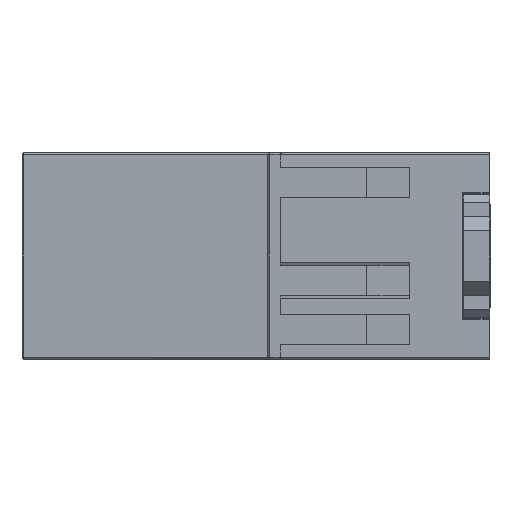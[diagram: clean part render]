
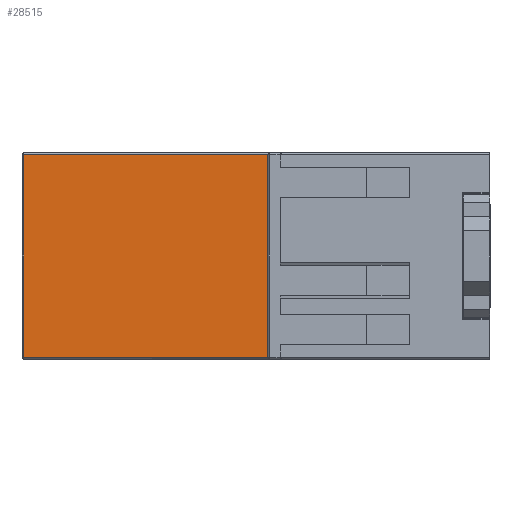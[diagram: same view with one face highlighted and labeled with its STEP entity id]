
A CAD part, left-side view. The second image highlights one B-rep face of the part: STEP entity #28515.
In plain terms, the highlighted planar face has unit normal (-1, 0, 0).
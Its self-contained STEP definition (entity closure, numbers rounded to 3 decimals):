
#123 = CARTESIAN_POINT ( 'NONE',  ( -6.398, -5.232, 10.7 ) ) ;
#653 = DIRECTION ( 'NONE',  ( 1., 0., 0. ) ) ;
#812 = LINE ( 'NONE', #13442, #5568 ) ;
#1127 = CARTESIAN_POINT ( 'NONE',  ( -6.398, -11.782, -10.95 ) ) ;
#1778 = VERTEX_POINT ( 'NONE', #38458 ) ;
#2226 = EDGE_CURVE ( 'NONE', #5420, #7599, #25348, .T. ) ;
#2523 = VECTOR ( 'NONE', #22946, 1000. ) ;
#2568 = EDGE_CURVE ( 'NONE', #1778, #10248, #3251, .T. ) ;
#2862 = CARTESIAN_POINT ( 'NONE',  ( -6.398, -11.782, 10.95 ) ) ;
#3251 = LINE ( 'NONE', #12582, #11279 ) ;
#3743 = CARTESIAN_POINT ( 'NONE',  ( -6.398, 27.118, 13.45 ) ) ;
#4287 = CARTESIAN_POINT ( 'NONE',  ( -6.398, 26.868, 13.2 ) ) ;
#4802 = DIRECTION ( 'NONE',  ( 0., 1., 0. ) ) ;
#5242 = DIRECTION ( 'NONE',  ( 0., 1., 0. ) ) ;
#5420 = VERTEX_POINT ( 'NONE', #2862 ) ;
#5568 = VECTOR ( 'NONE', #29818, 1000. ) ;
#5654 = EDGE_CURVE ( 'NONE', #20705, #37562, #7788, .T. ) ;
#5722 = CARTESIAN_POINT ( 'NONE',  ( -6.398, 26.868, 13.45 ) ) ;
#5918 = EDGE_CURVE ( 'NONE', #1778, #7599, #32276, .T. ) ;
#6045 = VERTEX_POINT ( 'NONE', #1127 ) ;
#6248 = CARTESIAN_POINT ( 'NONE',  ( -6.398, -4.982, 10.95 ) ) ;
#6524 = ORIENTED_EDGE ( 'NONE', *, *, #2568, .F. ) ;
#6589 = CARTESIAN_POINT ( 'NONE',  ( -6.398, 26.868, -13.2 ) ) ;
#6800 = ORIENTED_EDGE ( 'NONE', *, *, #31136, .F. ) ;
#6986 = EDGE_CURVE ( 'NONE', #37562, #9199, #9246, .T. ) ;
#7097 = AXIS2_PLACEMENT_3D ( 'NONE', #3743, #653, #40889 ) ;
#7416 = CARTESIAN_POINT ( 'NONE',  ( -6.398, -11.782, -13.2 ) ) ;
#7426 = ORIENTED_EDGE ( 'NONE', *, *, #2226, .F. ) ;
#7564 = CARTESIAN_POINT ( 'NONE',  ( -6.398, -11.782, -10.95 ) ) ;
#7599 = VERTEX_POINT ( 'NONE', #12513 ) ;
#7788 = LINE ( 'NONE', #4287, #17145 ) ;
#9199 = VERTEX_POINT ( 'NONE', #6589 ) ;
#9246 = LINE ( 'NONE', #5722, #40788 ) ;
#10060 = VERTEX_POINT ( 'NONE', #30100 ) ;
#10248 = VERTEX_POINT ( 'NONE', #18896 ) ;
#10280 = LINE ( 'NONE', #7564, #2523 ) ;
#11023 = CARTESIAN_POINT ( 'NONE',  ( -6.398, -5.232, -10.7 ) ) ;
#11279 = VECTOR ( 'NONE', #24062, 1000. ) ;
#12513 = CARTESIAN_POINT ( 'NONE',  ( -6.398, -5.232, 10.95 ) ) ;
#12582 = CARTESIAN_POINT ( 'NONE',  ( -6.398, -4.982, 13.45 ) ) ;
#13442 = CARTESIAN_POINT ( 'NONE',  ( -6.398, -11.782, -13.2 ) ) ;
#13568 = ORIENTED_EDGE ( 'NONE', *, *, #5918, .T. ) ;
#14569 = VECTOR ( 'NONE', #35286, 1000. ) ;
#16412 = EDGE_CURVE ( 'NONE', #5420, #20705, #37286, .T. ) ;
#16520 = VECTOR ( 'NONE', #24223, 1000. ) ;
#16922 = ORIENTED_EDGE ( 'NONE', *, *, #25525, .T. ) ;
#16936 = ORIENTED_EDGE ( 'NONE', *, *, #5654, .T. ) ;
#17145 = VECTOR ( 'NONE', #29581, 1000. ) ;
#17482 = LINE ( 'NONE', #30332, #39006 ) ;
#18896 = CARTESIAN_POINT ( 'NONE',  ( -6.398, -4.982, -10.7 ) ) ;
#19104 = PLANE ( 'NONE',  #7097 ) ;
#20705 = VERTEX_POINT ( 'NONE', #36669 ) ;
#21525 = CARTESIAN_POINT ( 'NONE',  ( -6.398, -11.782, 10.95 ) ) ;
#22946 = DIRECTION ( 'NONE',  ( 0., 0., -1. ) ) ;
#23688 = DIRECTION ( 'NONE',  ( 1., 0., 0. ) ) ;
#24062 = DIRECTION ( 'NONE',  ( 0., 0., -1. ) ) ;
#24223 = DIRECTION ( 'NONE',  ( 0., 0., 1. ) ) ;
#25348 = LINE ( 'NONE', #6248, #14569 ) ;
#25525 = EDGE_CURVE ( 'NONE', #9199, #35461, #812, .T. ) ;
#25537 = FACE_OUTER_BOUND ( 'NONE', #29186, .T. ) ;
#25602 = CIRCLE ( 'NONE', #32785, 0.25 ) ;
#25635 = CARTESIAN_POINT ( 'NONE',  ( -6.398, 26.868, 13.2 ) ) ;
#26971 = AXIS2_PLACEMENT_3D ( 'NONE', #123, #34751, #37867 ) ;
#27517 = DIRECTION ( 'NONE',  ( 0., 0., -1. ) ) ;
#28515 = ADVANCED_FACE ( 'NONE', ( #25537 ), #19104, .F. ) ;
#29186 = EDGE_LOOP ( 'NONE', ( #35400, #16936, #30153, #16922, #6800, #31477, #34287, #6524, #13568, #7426 ) ) ;
#29581 = DIRECTION ( 'NONE',  ( 0., 1., 0. ) ) ;
#29818 = DIRECTION ( 'NONE',  ( 0., -1., 0. ) ) ;
#30100 = CARTESIAN_POINT ( 'NONE',  ( -6.398, -5.232, -10.95 ) ) ;
#30153 = ORIENTED_EDGE ( 'NONE', *, *, #6986, .T. ) ;
#30332 = CARTESIAN_POINT ( 'NONE',  ( -6.398, -4.982, -10.95 ) ) ;
#31136 = EDGE_CURVE ( 'NONE', #6045, #35461, #10280, .T. ) ;
#31477 = ORIENTED_EDGE ( 'NONE', *, *, #31701, .T. ) ;
#31701 = EDGE_CURVE ( 'NONE', #6045, #10060, #17482, .T. ) ;
#32276 = CIRCLE ( 'NONE', #26971, 0.25 ) ;
#32785 = AXIS2_PLACEMENT_3D ( 'NONE', #11023, #23688, #4802 ) ;
#33534 = EDGE_CURVE ( 'NONE', #10060, #10248, #25602, .T. ) ;
#34287 = ORIENTED_EDGE ( 'NONE', *, *, #33534, .T. ) ;
#34751 = DIRECTION ( 'NONE',  ( 1., 0., 0. ) ) ;
#35286 = DIRECTION ( 'NONE',  ( 0., 1., 0. ) ) ;
#35400 = ORIENTED_EDGE ( 'NONE', *, *, #16412, .T. ) ;
#35461 = VERTEX_POINT ( 'NONE', #7416 ) ;
#36669 = CARTESIAN_POINT ( 'NONE',  ( -6.398, -11.782, 13.2 ) ) ;
#37286 = LINE ( 'NONE', #21525, #16520 ) ;
#37562 = VERTEX_POINT ( 'NONE', #25635 ) ;
#37867 = DIRECTION ( 'NONE',  ( 0., 1., 0. ) ) ;
#38458 = CARTESIAN_POINT ( 'NONE',  ( -6.398, -4.982, 10.7 ) ) ;
#39006 = VECTOR ( 'NONE', #5242, 1000. ) ;
#40788 = VECTOR ( 'NONE', #27517, 1000. ) ;
#40889 = DIRECTION ( 'NONE',  ( 0., 1., 0. ) ) ;
